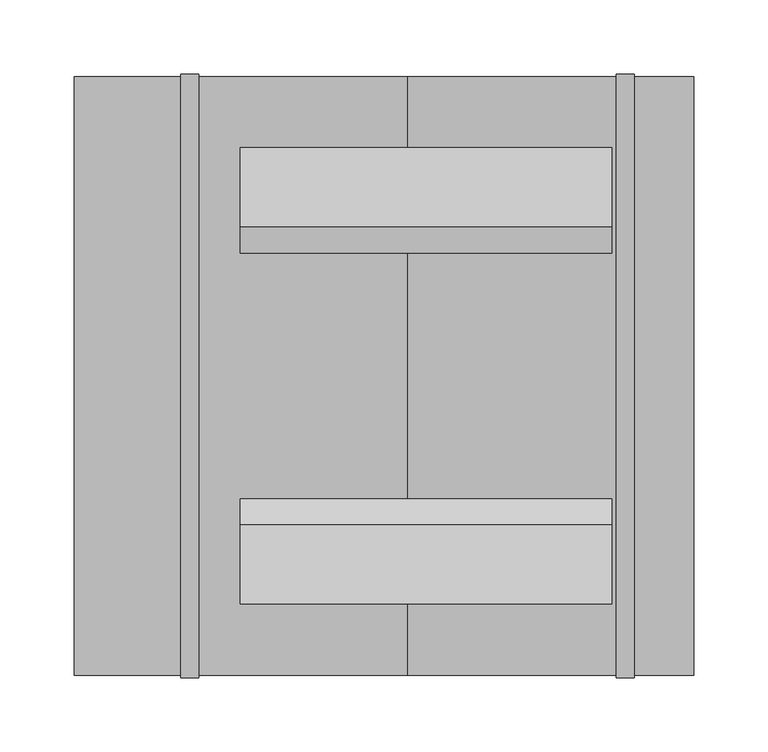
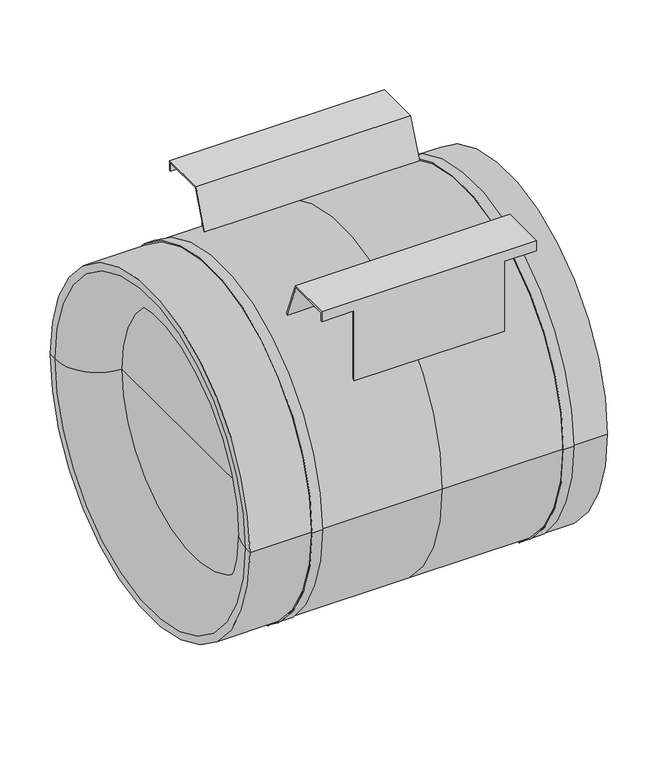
"""IFC4 building model written with IfcOpenShell, lengths in millimetres: unitary equipment geometry, VE-Wentylator-ParaForma-Harmann-JETTEC-Nawiewny : 400/5200F."""

from ifc_helpers import new_model, si_unit, point, frame, frame_2d, origin, place, context, project, spatial, polyline, circle_curve, ellipse_curve, trimmed, segment, composite_curve, outline, extrude, source, transform, mapped, element, save
from ifc_brep_helpers import plane_surface, cylinder_surface, revolved_surface, advanced_brep


def unitary_equipment_524c3896(model_context):
    return source(origin(), model_context, "Body", "SolidModel", [
        extrude(outline(composite_curve([segment(polyline([(-45.5, -47.7), (-45.5, 47.7)]), True, "CONTINUOUS"), segment(trimmed(circle_curve(frame_2d((-40.5, 47.7)), 5.0), [point((-45.5, 47.7))], [point((-40.5, 52.7))], False, "CARTESIAN"), True, "CONTINUOUS"), segment(polyline([(-40.5, 52.7), (40.5, 52.7)]), True, "CONTINUOUS"), segment(trimmed(circle_curve(frame_2d((40.5, 47.7)), 5.0), [point((40.5, 52.7))], [point((45.5, 47.7))], False, "CARTESIAN"), True, "CONTINUOUS"), segment(polyline([(45.5, 47.7), (45.5, -47.7)]), True, "CONTINUOUS"), segment(trimmed(circle_curve(frame_2d((40.5, -47.7)), 5.0), [point((45.5, -47.7))], [point((40.5, -52.7))], False, "CARTESIAN"), True, "CONTINUOUS"), segment(polyline([(40.5, -52.7), (-40.5, -52.7)]), True, "CONTINUOUS"), segment(trimmed(circle_curve(frame_2d((-40.5, -47.7)), 5.0), [point((-40.5, -52.7))], [point((-45.5, -47.7))], False, "CARTESIAN"), True, "CONTINUOUS")], self_intersect=False)), frame((0.0, -55.0, 0.0), z_axis=(0.0, 1.0, 0.0), x_axis=(0.0, 0.0, 1.0)), (0.0, 0.0, 1.0), 45.0),
        advanced_brep(
        [(137.5, 153.5, 216.5), (137.5, 153.5, 228.5), (137.5, 100.1, 228.5), (137.5, 82.790246, 183.7063558), (137.5, 84.6127647, 182.8740825), (137.5, 101.4712703, 226.5), (137.5, 151.5, 226.5), (137.5, 151.5, 216.5), (100.0, 151.5, 216.5), (100.0, 153.5, 216.5), (-112.5, 151.5, 226.5), (-112.5, 151.5, 216.5), (-75.0, 151.5, 216.5), (-75.0, 151.5, 132.8533026), (100.0, 151.5, 132.8533026), (-112.5, 101.4712703, 226.5), (100.0, 84.6127647, 182.8740825), (-75.0, 84.6127647, 182.8740825), (-112.5, 84.6127647, 182.8740825), (-112.5, 100.1, 228.5), (-112.5, 82.790246, 183.7063558), (-75.0, 82.790246, 183.7063558), (100.0, 82.790246, 183.7063558), (-112.5, 153.5, 228.5), (100.0, 153.5, 130.537351), (-75.0, 153.5, 130.537351), (-75.0, 153.5, 216.5), (-112.5, 153.5, 216.5)],
        [
            (0, 1),
            (1, 2),
            (2, 3),
            (3, 4, circle_curve(frame((137.5, 0.0, 0.0), z_axis=(-1.0, 0.0, 0.0), x_axis=(0.0, 1.0, 0.0)), 201.5)),
            (4, 5),
            (5, 6),
            (6, 7),
            (7, 0),
            (7, 8),
            (8, 9),
            (9, 0),
            (6, 10),
            (10, 11),
            (11, 12),
            (12, 13),
            (13, 14),
            (14, 8),
            (5, 15),
            (15, 10),
            (4, 16),
            (16, 17),
            (17, 18),
            (18, 15),
            (19, 20),
            (20, 21),
            (21, 22),
            (22, 3),
            (2, 19),
            (1, 23),
            (23, 19),
            (9, 24),
            (24, 25),
            (25, 26),
            (26, 27),
            (27, 23),
            (20, 18, circle_curve(frame((-112.5, 0.0, 0.0), z_axis=(-1.0, 0.0, 0.0), x_axis=(0.0, 1.0, 0.0)), 201.5)),
            (17, 21, circle_curve(frame((-75.0, 0.0, 0.0), z_axis=(1.0, 0.0, 0.0), x_axis=(0.0, 1.0, 0.0)), 201.5)),
            (22, 16, circle_curve(frame((100.0, 0.0, 0.0), z_axis=(-1.0, 0.0, 0.0), x_axis=(0.0, 1.0, 0.0)), 201.5)),
            (25, 13, circle_curve(frame((-75.0, 0.0, 0.0), z_axis=(1.0, 0.0, 0.0), x_axis=(0.0, 1.0, 0.0)), 201.5)),
            (12, 26),
            (14, 24, circle_curve(frame((100.0, 0.0, 0.0), z_axis=(-1.0, 0.0, 0.0), x_axis=(0.0, 1.0, 0.0)), 201.5)),
            (27, 11),
        ],
        [
            plane_surface(frame((137.5, 0.0, 0.0), z_axis=(1.0, 0.0, 0.0), x_axis=(0.0, 0.0, 1.0))),
            plane_surface(frame((100.0, 153.5, 216.5), z_axis=(0.0, 0.0, -1.0), x_axis=(1.0, 0.0, 0.0))),
            plane_surface(frame((100.0, 151.5, 216.5), z_axis=(0.0, -1.0, 0.0), x_axis=(1.0, 0.0, 0.0))),
            plane_surface(frame((100.0, 151.5, 226.5), z_axis=(0.0, 0.0, -1.0), x_axis=(1.0, 0.0, 0.0))),
            plane_surface(frame((100.0, 101.4712703, 226.5), z_axis=(0.0, 0.932776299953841, -0.36045578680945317), x_axis=(1.0, 0.0, 0.0))),
            plane_surface(frame((100.0, 11.8, 0.0), z_axis=(0.0, -0.9327762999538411, 0.36045578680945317), x_axis=(1.0, 0.0, 0.0))),
            plane_surface(frame((100.0, 100.1, 228.5), z_axis=(0.0, 0.0, 1.0), x_axis=(1.0, 0.0, 0.0))),
            plane_surface(frame((100.0, 153.5, 228.5), z_axis=(0.0, 1.0, 0.0), x_axis=(1.0, 0.0, 0.0))),
            revolved_surface(polyline([(-112.5, 201.5, 0.0), (-75.0, 201.5, 0.0)]), (-112.5, 0.0, 0.0), (-1.0, 0.0, 0.0)),
            revolved_surface(polyline([(100.0, 201.5, 0.0), (137.5, 201.5, 0.0)]), (100.0, 0.0, 0.0), (-1.0, 0.0, 0.0)),
            plane_surface(frame((-75.0, 0.0, 0.0), z_axis=(-1.0, 0.0, 0.0), x_axis=(0.0, 0.0, 1.0))),
            plane_surface(frame((100.0, 0.0, 0.0), z_axis=(1.0, 0.0, 0.0), x_axis=(0.0, 0.0, 1.0))),
            revolved_surface(polyline([(-75.0, 201.5, 0.0), (100.0, 201.5, 0.0)]), (-75.0, 0.0, 0.0), (-1.0, 0.0, 0.0)),
            plane_surface(frame((-112.5, 0.0, 0.0), z_axis=(-1.0, 0.0, 0.0), x_axis=(0.0, 0.0, 1.0))),
            plane_surface(frame((-112.5, 153.5, 216.5), z_axis=(0.0, 0.0, -1.0), x_axis=(1.0, 0.0, 0.0))),
        ],
        [
            (0, [[1, 2, 3, 4, 5, 6, 7, 8]]),
            (1, [[-8, 9, 10, 11]]),
            (2, [[-7, 12, 13, 14, 15, 16, 17, -9]]),
            (3, [[-12, -6, 18, 19]]),
            (4, [[-18, -5, 20, 21, 22, 23]]),
            (5, [[24, 25, 26, 27, -3, 28]]),
            (6, [[-28, -2, 29, 30]]),
            (7, [[-29, -1, -11, 31, 32, 33, 34, 35]]),
            (8, [[36, -22, 37, -25]]),
            (9, [[-4, -27, 38, -20]]),
            (10, [[39, -15, 40, -33]]),
            (11, [[41, -31, -10, -17]]),
            (12, [[-21, -38, -26, -37]]),
            (12, [[-39, -32, -41, -16]]),
            (13, [[42, -13, -19, -23, -36, -24, -30, -35]]),
            (14, [[-42, -34, -40, -14]]),
        ],
    ),
        advanced_brep(
        [(137.5, -100.1, 228.5), (137.5, -153.5, 228.5), (137.5, -153.5, 216.5), (137.5, -151.5, 216.5), (137.5, -151.5, 226.5), (137.5, -101.4712703, 226.5), (137.5, -84.6127647, 182.8740825), (137.5, -82.790246, 183.7063558), (-112.5, -101.4712703, 226.5), (-112.5, -84.6127647, 182.8740825), (-75.0, -84.6127647, 182.8740825), (100.0, -84.6127647, 182.8740825), (-112.5, -151.5, 226.5), (100.0, -151.5, 216.5), (100.0, -151.5, 132.8533026), (-75.0, -151.5, 132.8533026), (-75.0, -151.5, 216.5), (-112.5, -151.5, 216.5), (100.0, -153.5, 216.5), (-112.5, -153.5, 228.5), (-112.5, -153.5, 216.5), (-75.0, -153.5, 216.5), (-75.0, -153.5, 130.537351), (100.0, -153.5, 130.537351), (-112.5, -100.1, 228.5), (100.0, -82.790246, 183.7063558), (-75.0, -82.790246, 183.7063558), (-112.5, -82.790246, 183.7063558)],
        [
            (0, 1),
            (1, 2),
            (2, 3),
            (3, 4),
            (4, 5),
            (5, 6),
            (6, 7, circle_curve(frame((137.5, 0.0, 0.0), z_axis=(-1.0, 0.0, 0.0), x_axis=(0.0, 1.0, 0.0)), 201.5)),
            (7, 0),
            (8, 9),
            (9, 10),
            (10, 11),
            (11, 6),
            (5, 8),
            (4, 12),
            (12, 8),
            (3, 13),
            (13, 14),
            (14, 15),
            (15, 16),
            (16, 17),
            (17, 12),
            (2, 18),
            (18, 13),
            (1, 19),
            (19, 20),
            (20, 21),
            (21, 22),
            (22, 23),
            (23, 18),
            (0, 24),
            (24, 19),
            (7, 25),
            (25, 26),
            (26, 27),
            (27, 24),
            (9, 27, circle_curve(frame((-112.5, 0.0, 0.0), z_axis=(-1.0, 0.0, 0.0), x_axis=(0.0, 1.0, 0.0)), 201.5)),
            (26, 10, circle_curve(frame((-75.0, 0.0, 0.0), z_axis=(1.0, 0.0, 0.0), x_axis=(0.0, 1.0, 0.0)), 201.5)),
            (11, 25, circle_curve(frame((100.0, 0.0, 0.0), z_axis=(-1.0, 0.0, 0.0), x_axis=(0.0, 1.0, 0.0)), 201.5)),
            (15, 22, circle_curve(frame((-75.0, 0.0, 0.0), z_axis=(1.0, 0.0, 0.0), x_axis=(0.0, 1.0, 0.0)), 201.5)),
            (21, 16),
            (23, 14, circle_curve(frame((100.0, 0.0, 0.0), z_axis=(-1.0, 0.0, 0.0), x_axis=(0.0, 1.0, 0.0)), 201.5)),
            (17, 20),
        ],
        [
            plane_surface(frame((137.5, 0.0, 0.0), z_axis=(1.0, 0.0, 0.0), x_axis=(0.0, 0.0, 1.0))),
            plane_surface(frame((100.0, -13.1712703, -2.0), z_axis=(0.0, -0.932776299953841, -0.36045578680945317), x_axis=(1.0, 0.0, 0.0))),
            plane_surface(frame((100.0, -101.4712703, 226.5), z_axis=(0.0, 0.0, -1.0), x_axis=(1.0, 0.0, 0.0))),
            plane_surface(frame((100.0, -151.5, 226.5), z_axis=(0.0, 1.0, 0.0), x_axis=(1.0, 0.0, 0.0))),
            plane_surface(frame((100.0, -151.5, 216.5), z_axis=(0.0, 0.0, -1.0), x_axis=(1.0, 0.0, 0.0))),
            plane_surface(frame((100.0, -153.5, 216.5), z_axis=(0.0, -1.0, 0.0), x_axis=(1.0, 0.0, 0.0))),
            plane_surface(frame((100.0, -153.5, 228.5), z_axis=(0.0, 0.0, 1.0), x_axis=(1.0, 0.0, 0.0))),
            plane_surface(frame((100.0, -100.1, 228.5), z_axis=(0.0, 0.9327762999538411, 0.36045578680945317), x_axis=(1.0, 0.0, 0.0))),
            revolved_surface(polyline([(-112.5, 201.5, 0.0), (-75.0, 201.5, 0.0)]), (-112.5, 0.0, 0.0), (-1.0, 0.0, 0.0)),
            revolved_surface(polyline([(100.0, 201.5, 0.0), (137.5, 201.5, 0.0)]), (100.0, 0.0, 0.0), (-1.0, 0.0, 0.0)),
            plane_surface(frame((-75.0, 0.0, 0.0), z_axis=(-1.0, 0.0, 0.0), x_axis=(0.0, 0.0, 1.0))),
            plane_surface(frame((100.0, 0.0, 0.0), z_axis=(1.0, 0.0, 0.0), x_axis=(0.0, 0.0, 1.0))),
            revolved_surface(polyline([(-75.0, 201.5, 0.0), (100.0, 201.5, 0.0)]), (-75.0, 0.0, 0.0), (-1.0, 0.0, 0.0)),
            plane_surface(frame((-112.5, 0.0, 0.0), z_axis=(-1.0, 0.0, 0.0), x_axis=(0.0, 0.0, 1.0))),
            plane_surface(frame((-112.5, -151.5, 216.5), z_axis=(0.0, 0.0, -1.0), x_axis=(1.0, 0.0, 0.0))),
        ],
        [
            (0, [[1, 2, 3, 4, 5, 6, 7, 8]]),
            (1, [[9, 10, 11, 12, -6, 13]]),
            (2, [[-13, -5, 14, 15]]),
            (3, [[-14, -4, 16, 17, 18, 19, 20, 21]]),
            (4, [[-3, 22, 23, -16]]),
            (5, [[-2, 24, 25, 26, 27, 28, 29, -22]]),
            (6, [[-24, -1, 30, 31]]),
            (7, [[-30, -8, 32, 33, 34, 35]]),
            (8, [[36, -34, 37, -10]]),
            (9, [[-7, -12, 38, -32]]),
            (10, [[39, -27, 40, -19]]),
            (11, [[41, -17, -23, -29]]),
            (12, [[-11, -37, -33, -38]]),
            (12, [[-39, -18, -41, -28]]),
            (13, [[-15, -21, 42, -25, -31, -35, -36, -9]]),
            (14, [[-42, -20, -40, -26]]),
        ],
    ),
        advanced_brep(
        [(-140.5, 201.5, 0.0), (0.0, 201.5, 0.0), (0.0, -201.5, 0.0), (-140.5, -201.5, 0.0), (-224.0, -201.5, 0.0), (-224.0, 201.5, 0.0), (-152.5, 201.5, 0.0), (-152.5, -201.5, 0.0), (-224.0, -192.5, 0.0), (-224.0, 192.5, 0.0), (-174.5, -143.0, 0.0), (-174.5, 143.0, 0.0), (-174.5, 0.0, 0.0), (192.5, -201.5, 0.0), (192.5, 201.5, 0.0), (192.5, 0.0, 0.0), (152.5, -201.5, 0.0), (152.5, 201.5, 0.0), (140.5, 201.5, 0.0), (140.5, -201.5, 0.0), (-140.5, -203.0, 0.0), (-140.5, 203.0, 0.0), (-152.5, -203.0, 0.0), (-152.5, 203.0, 0.0), (152.5, -203.0, 0.0), (152.5, 203.0, 0.0), (140.5, -203.0, 0.0), (140.5, 203.0, 0.0)],
        [
            (0, 1),
            (1, 2, circle_curve(frame((0.0, 0.0, 0.0), z_axis=(-1.0, 0.0, 0.0), x_axis=(0.0, 1.0, 0.0)), 201.5)),
            (2, 3),
            (3, 0, circle_curve(frame((-140.5, 0.0, 0.0), z_axis=(1.0, 0.0, 0.0), x_axis=(0.0, 1.0, 0.0)), 201.5)),
            (0, 3, circle_curve(frame((-140.5, 0.0, 0.0), z_axis=(1.0, 0.0, 0.0), x_axis=(0.0, 1.0, 0.0)), 201.5)),
            (2, 1, circle_curve(frame((0.0, 0.0, 0.0), z_axis=(-1.0, 0.0, 0.0), x_axis=(0.0, 1.0, 0.0)), 201.5)),
            (4, 5, circle_curve(frame((-224.0, 0.0, 0.0), z_axis=(1.0, 0.0, 0.0), x_axis=(0.0, 1.0, 0.0)), 201.5)),
            (5, 6),
            (6, 7, circle_curve(frame((-152.5, 0.0, 0.0), z_axis=(-1.0, 0.0, 0.0), x_axis=(0.0, 1.0, 0.0)), 201.5)),
            (7, 4),
            (5, 4, circle_curve(frame((-224.0, 0.0, 0.0), z_axis=(1.0, 0.0, 0.0), x_axis=(0.0, 1.0, 0.0)), 201.5)),
            (7, 6, circle_curve(frame((-152.5, 0.0, 0.0), z_axis=(-1.0, 0.0, 0.0), x_axis=(0.0, 1.0, 0.0)), 201.5)),
            (4, 8),
            (8, 9, circle_curve(frame((-224.0, 0.0, 0.0), z_axis=(1.0, 0.0, 0.0), x_axis=(0.0, 1.0, 0.0)), 192.5)),
            (9, 5),
            (9, 8, circle_curve(frame((-224.0, 0.0, 0.0), z_axis=(1.0, 0.0, 0.0), x_axis=(0.0, 1.0, 0.0)), 192.5)),
            (8, 10, circle_curve(frame((-174.5, -192.5, 0.0), z_axis=(0.0, 0.0, -1.0), x_axis=(1.0, 0.0, 0.0)), 49.5)),
            (10, 11, circle_curve(frame((-174.5, 0.0, 0.0), z_axis=(1.0, 0.0, 0.0), x_axis=(0.0, 1.0, 0.0)), 143.0)),
            (11, 9, circle_curve(frame((-174.5, 192.5, 0.0), z_axis=(0.0, 0.0, -1.0), x_axis=(1.0, 0.0, 0.0)), 49.5)),
            (11, 10, circle_curve(frame((-174.5, 0.0, 0.0), z_axis=(1.0, 0.0, 0.0), x_axis=(0.0, 1.0, 0.0)), 143.0)),
            (10, 12),
            (12, 11),
            (13, 14, circle_curve(frame((192.5, 0.0, 0.0), z_axis=(1.0, 0.0, 0.0), x_axis=(0.0, 1.0, 0.0)), 201.5)),
            (14, 15),
            (15, 13),
            (14, 13, circle_curve(frame((192.5, 0.0, 0.0), z_axis=(1.0, 0.0, 0.0), x_axis=(0.0, 1.0, 0.0)), 201.5)),
            (13, 16),
            (16, 17, circle_curve(frame((152.5, 0.0, 0.0), z_axis=(1.0, 0.0, 0.0), x_axis=(0.0, 1.0, 0.0)), 201.5)),
            (17, 14),
            (17, 16, circle_curve(frame((152.5, 0.0, 0.0), z_axis=(1.0, 0.0, 0.0), x_axis=(0.0, 1.0, 0.0)), 201.5)),
            (1, 18),
            (18, 19, circle_curve(frame((140.5, 0.0, 0.0), z_axis=(-1.0, 0.0, 0.0), x_axis=(0.0, 1.0, 0.0)), 201.5)),
            (19, 2),
            (19, 18, circle_curve(frame((140.5, 0.0, 0.0), z_axis=(-1.0, 0.0, 0.0), x_axis=(0.0, 1.0, 0.0)), 201.5)),
            (20, 21, circle_curve(frame((-140.5, 0.0, 0.0), z_axis=(1.0, 0.0, 0.0), x_axis=(0.0, 1.0, 0.0)), 203.0)),
            (21, 0),
            (3, 20),
            (21, 20, circle_curve(frame((-140.5, 0.0, 0.0), z_axis=(1.0, 0.0, 0.0), x_axis=(0.0, 1.0, 0.0)), 203.0)),
            (20, 22),
            (22, 23, circle_curve(frame((-152.5, 0.0, 0.0), z_axis=(1.0, 0.0, 0.0), x_axis=(0.0, 1.0, 0.0)), 203.0)),
            (23, 21),
            (23, 22, circle_curve(frame((-152.5, 0.0, 0.0), z_axis=(1.0, 0.0, 0.0), x_axis=(0.0, 1.0, 0.0)), 203.0)),
            (22, 7),
            (6, 23),
            (24, 25, circle_curve(frame((152.5, 0.0, 0.0), z_axis=(1.0, 0.0, 0.0), x_axis=(0.0, 1.0, 0.0)), 203.0)),
            (25, 17),
            (16, 24),
            (25, 24, circle_curve(frame((152.5, 0.0, 0.0), z_axis=(1.0, 0.0, 0.0), x_axis=(0.0, 1.0, 0.0)), 203.0)),
            (24, 26),
            (26, 27, circle_curve(frame((140.5, 0.0, 0.0), z_axis=(1.0, 0.0, 0.0), x_axis=(0.0, 1.0, 0.0)), 203.0)),
            (27, 25),
            (27, 26, circle_curve(frame((140.5, 0.0, 0.0), z_axis=(1.0, 0.0, 0.0), x_axis=(0.0, 1.0, 0.0)), 203.0)),
            (26, 19),
            (18, 27),
        ],
        [
            cylinder_surface(frame((-174.5, 0.0, 0.0), z_axis=(-1.0, 0.0, 0.0), x_axis=(0.0, 1.0, 0.0)), 201.5),
            plane_surface(frame((-224.0, 0.0, 0.0), z_axis=(-1.0, 0.0, 0.0), x_axis=(0.0, 1.0, 0.0))),
            revolved_surface(trimmed(ellipse_curve(frame((-174.5, 192.5, 0.0), z_axis=(0.0, 0.0, 1.0), x_axis=(1.0, 0.0, 0.0)), 49.5, 49.5), [point((-224.0, 192.5, 0.0))], [point((-174.5, 143.0, 0.0))], True, "CARTESIAN"), (-174.5, 0.0, 0.0), (-1.0, 0.0, 0.0)),
            plane_surface(frame((-174.5, 0.0, 0.0), z_axis=(-1.0, 0.0, 0.0), x_axis=(0.0, 1.0, 0.0))),
            plane_surface(frame((192.5, 0.0, 0.0), z_axis=(1.0, 0.0, 0.0), x_axis=(0.0, 1.0, 0.0))),
            cylinder_surface(frame((0.0, 0.0, 0.0), z_axis=(-1.0, 0.0, 0.0), x_axis=(0.0, 1.0, 0.0)), 201.5),
            plane_surface(frame((-140.5, 0.0, 0.0), z_axis=(1.0, 0.0, 0.0), x_axis=(0.0, 1.0, 0.0))),
            cylinder_surface(frame((-152.5, 0.0, 0.0), z_axis=(-1.0, 0.0, 0.0), x_axis=(0.0, 1.0, 0.0)), 203.0),
            plane_surface(frame((-152.5, 0.0, 0.0), z_axis=(-1.0, 0.0, 0.0), x_axis=(0.0, 1.0, 0.0))),
            plane_surface(frame((152.5, 0.0, 0.0), z_axis=(1.0, 0.0, 0.0), x_axis=(0.0, 1.0, 0.0))),
            plane_surface(frame((140.5, 0.0, 0.0), z_axis=(-1.0, 0.0, 0.0), x_axis=(0.0, 1.0, 0.0))),
        ],
        [
            (0, [[1, 2, 3, 4]]),
            (0, [[-1, 5, -3, 6]]),
            (0, [[7, 8, 9, 10]]),
            (0, [[-8, 11, -10, 12]]),
            (1, [[-7, 13, 14, 15]]),
            (1, [[-11, -15, 16, -13]]),
            (2, [[-14, 17, 18, 19]]),
            (2, [[-16, -19, 20, -17]]),
            (3, [[-18, 21, 22]]),
            (3, [[-20, -22, -21]]),
            (4, [[23, 24, 25]]),
            (4, [[-24, 26, -25]]),
            (5, [[-23, 27, 28, 29]]),
            (5, [[-26, -29, 30, -27]]),
            (5, [[31, 32, 33, -2]]),
            (5, [[-31, -6, -33, 34]]),
            (6, [[35, 36, -4, 37]]),
            (6, [[38, -37, -5, -36]]),
            (7, [[-35, 39, 40, 41]]),
            (7, [[-38, -41, 42, -39]]),
            (8, [[-40, 43, -9, 44]]),
            (8, [[-42, -44, -12, -43]]),
            (9, [[45, 46, -28, 47]]),
            (9, [[48, -47, -30, -46]]),
            (7, [[-45, 49, 50, 51]]),
            (7, [[-48, -51, 52, -49]]),
            (10, [[-50, 53, -32, 54]]),
            (10, [[-52, -54, -34, -53]]),
        ],
    ),
    ])


if __name__ == "__main__":
    model = new_model("IFC4")
    model_context = context("Model", 3, world=origin())
    ifc_project = project(units=[si_unit("LENGTHUNIT", "METRE", prefix="MILLI")], contexts=[model_context])
    site = spatial("IfcSite", under=ifc_project)
    building = spatial("IfcBuilding", under=site)
    placement = place(None, origin())
    unitary_equipment_shape = unitary_equipment_524c3896(model_context)
    element("IfcUnitaryEquipment", 1, ObjectType="VE-Wentylator-ParaForma-Harmann-JETTEC-Nawiewny : 400/5200F", at=placement, inside=building, context=model_context, shape_type="MappedRepresentation", body=[
        mapped(unitary_equipment_shape, transform((0.0, 0.0, 0.0), x_axis=(1.0, 0.0, 0.0), y_axis=(0.0, 1.0, 0.0), z_axis=(0.0, 0.0, 1.0))),
    ])
    save(model, "model.ifc")
